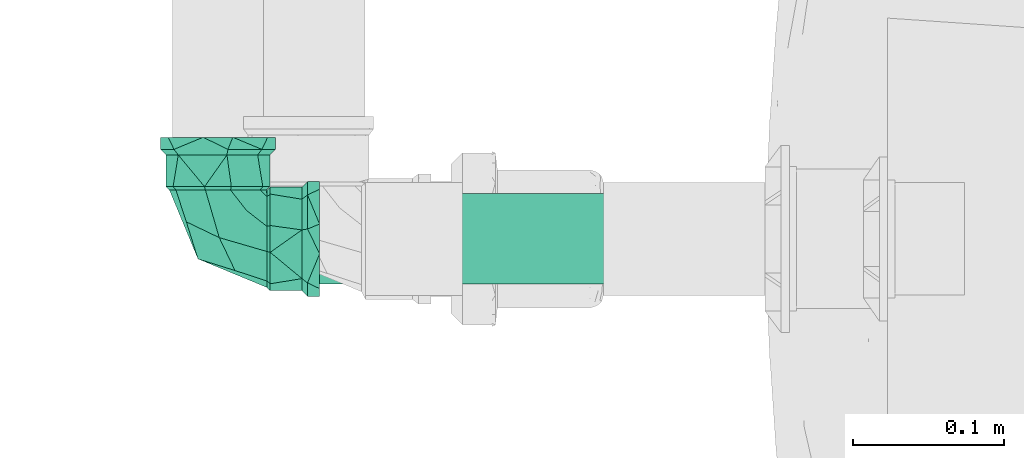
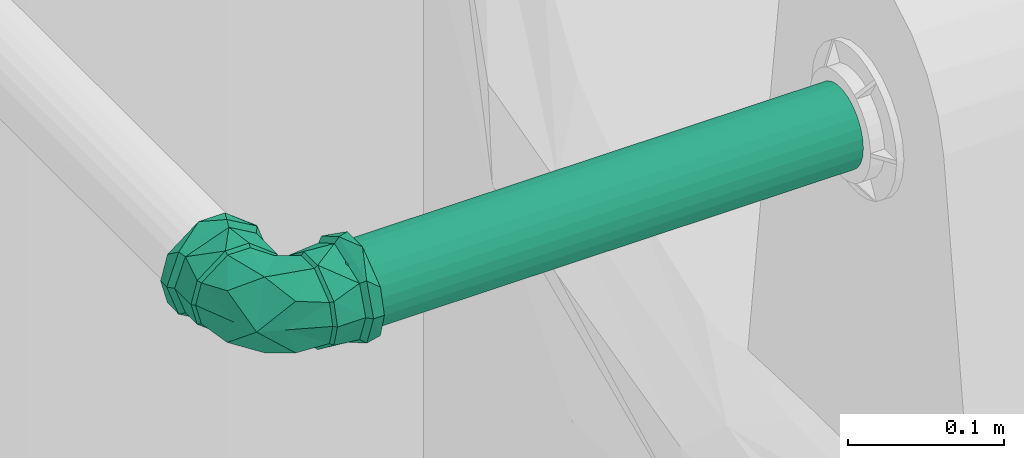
# One storey, part 48 of 166: 1 flow fitting, 1 flow segment.
"""IFC2X3 building model written with IfcOpenShell, lengths in metres."""

from ifc_helpers import new_model, entity, si_unit, converted_unit, direction, frame, origin, origin_2d_with_axis, place, context, subcontext, project, spatial, circle, extrude, faceted_brep, source, transform, mapped, material, type_object, type_shapes, element, save


model = new_model("IFC2X3")

# Units and contexts
model_context = context("Model", 3, precision=1e-05, world=origin(), true_north=direction((6.123233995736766e-17, 1.0)))
body_context = subcontext(model_context, "Body", "Model", "MODEL_VIEW")
ifc_project = project(units=[si_unit("LENGTHUNIT", "METRE"), converted_unit("PLANEANGLEUNIT", "DEGREE", entity("IfcPlaneAngleMeasure", 0.017453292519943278), si_unit("PLANEANGLEUNIT", "RADIAN"), dimensions=[0, 0, 0, 0, 0, 0, 0]), si_unit("AREAUNIT", "SQUARE_METRE")], contexts=[model_context])

# Site, building, storey
site_placement = place(None, origin())
site = spatial("IfcSite", under=ifc_project, at=site_placement, Name="Default", CompositionType="ELEMENT")
building_placement = place(site_placement, origin())
building = spatial("IfcBuilding", under=site, at=building_placement, Name="CASA DE ACOLHIDA PARA IDOSOS", CompositionType="ELEMENT")
storey_placement = place(building_placement, frame((0.0, 0.0, -1.7499999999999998)))
storey = spatial("IfcBuildingStorey", under=building, at=storey_placement, Name="IMPLANTAÇÃO DRENAGEM", CompositionType="ELEMENT", Elevation=-1.7499999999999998)

# Flow segment
pipe_segment_type = type_object("IfcPipeSegmentType", Name="Tipos de tubos:AF_Tubo Branco Roscável", PredefinedType="NOTDEFINED")
flow_segment_placement = place(storey_placement, origin())
element("IfcFlowSegment", 1, at=flow_segment_placement, inside=storey, type_object=pipe_segment_type, Name="Tipos de tubos:AF_Tubo Branco Roscável", ObjectType="Tipos de tubos:AF_Tubo Branco Roscável", context=body_context, shape_type="SweptSolid", body=[
    extrude(circle(Radius=0.03, at=origin_2d_with_axis()), frame((-64.67268057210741, -2.2373781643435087, 2.615000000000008), z_axis=(1.0, 0.0, 0.0), x_axis=(0.0, 1.0, 0.0)), (0.0, 0.0, 1.0), 0.3927705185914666),
])

# Flow fitting
ifc_material = material(Name="PVC Marrom")
pipe_fitting_type = type_object("IfcPipeFittingType", Name="AF_Soldavel_Joelho 45_90:Standard", PredefinedType="NOTDEFINED", material=ifc_material)
shared_shape = source(origin(), body_context, "Body", "Brep", [
    faceted_brep([(-0.029704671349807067, 0.03460000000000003, 0.017149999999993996), (-0.01929108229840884, 0.03460000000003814, 0.02514062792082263), (-0.008877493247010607, 0.034600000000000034, 0.03313125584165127), (0.008877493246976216, 0.034600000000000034, 0.03313125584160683), (0.019291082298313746, 0.0346000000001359, 0.025140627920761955), (0.02970467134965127, 0.03460000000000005, 0.017149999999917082), (0.03429999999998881, 0.03460000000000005, 0.0), (0.0297046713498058, 0.03460000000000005, -0.017150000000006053), (0.019291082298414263, 0.03459999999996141, -0.025140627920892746), (0.008877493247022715, 0.034600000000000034, -0.03313125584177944), (-0.008877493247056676, 0.034600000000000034, -0.033131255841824), (-0.019291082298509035, 0.034599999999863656, -0.025140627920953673), (-0.0297046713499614, 0.03460000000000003, -0.017150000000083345), (-0.03430000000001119, 0.03460000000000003, 0.0), (0.00832103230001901, 0.03240000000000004, 0.031054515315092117), (-0.00832103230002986, 0.03240000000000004, 0.031054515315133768), (-0.01808187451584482, 0.03240000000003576, 0.023564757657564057), (-0.02784271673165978, 0.032400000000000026, 0.01607499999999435), (-0.032150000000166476, 0.032400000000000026, 0.0), (-0.027842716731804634, 0.032400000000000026, -0.016075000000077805), (-0.018081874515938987, 0.03239999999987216, -0.023564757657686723), (-0.00832103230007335, 0.03240000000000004, -0.031054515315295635), (0.008321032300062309, 0.03240000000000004, -0.031054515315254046), (0.018081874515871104, 0.0323999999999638, -0.02356475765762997), (0.0278427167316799, 0.03240000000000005, -0.016075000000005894), (0.032149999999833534, 0.03240000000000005, 0.0), (0.02784271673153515, 0.03240000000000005, 0.016074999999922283), (0.01808187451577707, 0.03240000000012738, 0.023564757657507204)], [[[0, 1, 2, 3, 4, 5, 6, 7, 8, 9, 10, 11, 12, 13]], [[14, 15, 16, 17, 18, 19, 20, 21, 22, 23, 24, 25, 26, 27]], [[7, 25, 24]], [[9, 8, 7, 24, 23, 22]], [[20, 19, 12, 11, 10, 21]], [[7, 6, 25]], [[22, 21, 10, 9]], [[13, 19, 18]], [[13, 12, 19]], [[0, 18, 17]], [[2, 1, 0, 17, 16, 15]], [[27, 26, 5, 4, 3, 14]], [[0, 13, 18]], [[15, 14, 3, 2]], [[6, 26, 25]], [[6, 5, 26]]]),
    faceted_brep([(-0.0345999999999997, -0.008877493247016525, 0.03313125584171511), (-0.0345999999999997, 0.008877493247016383, 0.03313125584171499), (-0.03459999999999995, 0.019291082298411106, 0.025140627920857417), (-0.0345999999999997, 0.029704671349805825, 0.01714999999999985), (-0.0345999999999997, 0.0343, 0.0), (-0.0345999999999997, 0.029704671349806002, -0.017149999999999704), (-0.034600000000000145, 0.019291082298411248, -0.025140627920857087), (-0.0345999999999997, 0.008877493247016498, -0.033131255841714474), (-0.0345999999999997, -0.008877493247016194, -0.033131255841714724), (-0.03459999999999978, -0.019291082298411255, -0.0251406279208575), (-0.0345999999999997, -0.029704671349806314, -0.017150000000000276), (-0.0345999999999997, -0.0343, 0.0), (-0.0345999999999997, -0.02970467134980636, 0.017150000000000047), (-0.03459999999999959, -0.019291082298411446, 0.025140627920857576), (-0.0323999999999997, 0.032149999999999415, 0.0), (-0.0323999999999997, 0.02784271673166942, 0.016074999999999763), (-0.03239999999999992, 0.018081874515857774, 0.023564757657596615), (-0.0323999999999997, 0.008321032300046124, 0.031054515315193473), (-0.0323999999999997, -0.008321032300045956, 0.031054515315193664), (-0.032399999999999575, -0.01808187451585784, 0.023564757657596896), (-0.0323999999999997, -0.027842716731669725, 0.016075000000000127), (-0.0323999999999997, -0.03215000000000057, 0.0), (-0.0323999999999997, -0.027842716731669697, -0.01607500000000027), (-0.03239999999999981, -0.01808187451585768, -0.02356475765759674), (-0.0323999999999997, -0.008321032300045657, -0.031054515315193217), (-0.0323999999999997, 0.008321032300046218, -0.031054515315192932), (-0.032400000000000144, 0.018081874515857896, -0.023564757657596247), (-0.0323999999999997, 0.027842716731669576, -0.016074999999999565)], [[[0, 1, 2, 3, 4, 5, 6, 7, 8, 9, 10, 11, 12, 13]], [[14, 15, 16, 17, 18, 19, 20, 21, 22, 23, 24, 25, 26, 27]], [[5, 4, 14, 27]], [[7, 6, 5, 27, 26, 25]], [[23, 22, 10, 9, 8, 24]], [[25, 24, 8, 7]], [[11, 10, 22, 21]], [[12, 11, 21, 20]], [[0, 13, 12, 20, 19, 18]], [[16, 15, 3, 2, 1, 17]], [[18, 17, 1, 0]], [[4, 3, 15, 14]]]),
    faceted_brep([(-0.06729999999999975, -0.009835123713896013, -0.03670518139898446), (-0.06729999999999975, 0.0, -0.03), (-0.06729999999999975, 0.009835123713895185, -0.03670518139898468), (-0.06729999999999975, -0.015000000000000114, -0.025980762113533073), (-0.06729999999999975, -0.032908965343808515, -0.019000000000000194), (-0.06729999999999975, -0.028977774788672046, -0.007764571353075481), (-0.06729999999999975, -0.03799999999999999, 0.0), (-0.06729999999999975, -0.02897777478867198, 0.007764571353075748), (-0.06729999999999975, -0.03290896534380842, 0.01899999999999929), (-0.06729999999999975, -0.014999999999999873, 0.02598076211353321), (-0.06729999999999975, -0.009835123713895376, 0.036705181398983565), (-0.06729999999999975, 0.0, 0.03), (-0.06729999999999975, 0.009835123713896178, 0.03670518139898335), (-0.06729999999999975, 0.014999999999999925, 0.025980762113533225), (-0.06729999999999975, 0.032908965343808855, 0.018999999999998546), (-0.06729999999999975, 0.028977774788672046, 0.007764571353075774), (-0.06729999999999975, 0.038000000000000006, 0.0), (-0.06729999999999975, 0.028977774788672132, -0.007764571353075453), (-0.06729999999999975, 0.03290896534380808, -0.01900000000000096), (-0.06729999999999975, 0.015000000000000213, -0.025980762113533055), (-0.05929999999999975, 0.038000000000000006, 0.0), (-0.05930000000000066, 0.029109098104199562, 0.024426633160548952), (-0.05930000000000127, 0.006596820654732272, 0.03742301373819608), (-0.05930000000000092, -0.029111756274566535, 0.02442346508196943), (-0.05929999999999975, -0.03799999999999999, 0.0), (-0.05929999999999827, -0.029111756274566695, -0.024423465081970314), (-0.05929999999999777, -0.006600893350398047, -0.03742229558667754), (-0.059299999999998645, 0.029109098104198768, -0.024426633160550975), (-0.05560000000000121, -0.026279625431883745, 0.022042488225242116), (-0.05560000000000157, 0.005952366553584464, 0.033779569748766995), (-0.05559999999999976, -0.0343, 0.0), (-0.05560000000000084, 0.026274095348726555, 0.022049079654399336), (-0.05559999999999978, 0.034299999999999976, 0.0), (-0.055599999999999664, 0.02627409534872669, -0.02204907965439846), (-0.05559999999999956, -0.0059608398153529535, -0.03377807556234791), (-0.05559999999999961, -0.026279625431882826, -0.022042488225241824), (-0.03459999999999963, -0.015000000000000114, -0.025980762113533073), (-0.03459999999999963, -0.0088774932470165, -0.03313125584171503), (-0.03459999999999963, 0.0, -0.03), (-0.03459999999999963, -0.02970467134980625, -0.017149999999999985), (-0.03459999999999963, -0.028977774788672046, -0.007764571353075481), (-0.03459999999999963, -0.0343, 0.0), (-0.03459999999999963, -0.02897777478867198, 0.007764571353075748), (-0.03459999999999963, -0.029704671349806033, 0.017150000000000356), (-0.03459999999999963, -0.014999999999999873, 0.02598076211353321), (-0.03459999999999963, -0.008877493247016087, 0.03313125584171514), (-0.03459999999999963, 0.0, 0.03), (-0.03459999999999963, 0.008877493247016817, 0.033131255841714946), (-0.03459999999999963, 0.014999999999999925, 0.025980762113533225), (-0.03459999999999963, 0.029704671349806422, 0.0171499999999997), (-0.03459999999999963, 0.028977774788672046, 0.007764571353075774), (-0.03459999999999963, 0.034300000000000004, 0.0), (-0.03459999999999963, 0.028977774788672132, -0.007764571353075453), (-0.03459999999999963, 0.029704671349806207, -0.017150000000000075), (-0.03459999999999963, 0.015000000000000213, -0.025980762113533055), (-0.03459999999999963, 0.008877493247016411, -0.03313125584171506)], [[[0, 1, 2]], [[1, 0, 3]], [[4, 3, 0]], [[3, 4, 5]], [[5, 4, 6]], [[7, 5, 6]], [[7, 6, 8]], [[8, 9, 7]], [[8, 10, 9]], [[9, 10, 11]], [[12, 11, 10]], [[13, 11, 12]], [[13, 12, 14]], [[14, 15, 13]], [[15, 14, 16]], [[15, 16, 17]], [[18, 17, 16]], [[2, 19, 18]], [[17, 18, 19]], [[19, 2, 1]], [[16, 14, 20]], [[14, 21, 20]], [[21, 14, 12]], [[21, 12, 22]], [[23, 10, 8]], [[24, 8, 6]], [[10, 23, 22]], [[23, 8, 24]], [[10, 22, 12]], [[6, 4, 24]], [[4, 25, 24]], [[25, 4, 0]], [[25, 0, 26]], [[27, 2, 18]], [[20, 18, 16]], [[2, 27, 26]], [[27, 18, 20]], [[2, 26, 0]], [[28, 29, 23]], [[30, 28, 24]], [[24, 28, 23]], [[29, 22, 23]], [[31, 32, 21]], [[21, 22, 31]], [[20, 21, 32]], [[31, 22, 29]], [[32, 33, 27]], [[27, 20, 32]], [[26, 27, 33]], [[33, 34, 26]], [[35, 30, 24]], [[35, 25, 34]], [[25, 35, 24]], [[34, 25, 26]], [[36, 37, 38]], [[39, 37, 36]], [[36, 40, 39]], [[40, 41, 39]], [[42, 41, 40]], [[41, 42, 43]], [[44, 43, 42]], [[43, 44, 45]], [[46, 45, 44]], [[47, 45, 46]], [[48, 47, 46]], [[47, 48, 49]], [[50, 49, 48]], [[49, 50, 51]], [[51, 50, 52]], [[51, 52, 53]], [[53, 52, 54]], [[54, 38, 55]], [[55, 53, 54]], [[37, 55, 38]], [[32, 31, 49]], [[32, 49, 51]], [[49, 31, 47]], [[31, 29, 47]], [[45, 29, 28]], [[43, 28, 30]], [[28, 43, 45]], [[43, 30, 41]], [[29, 45, 47]], [[30, 35, 39]], [[30, 39, 41]], [[39, 35, 37]], [[35, 34, 37]], [[55, 34, 33]], [[53, 33, 32]], [[33, 53, 55]], [[53, 32, 51]], [[34, 55, 37]], [[9, 11, 46, 44]], [[7, 9, 44, 42]], [[42, 40, 5, 7]], [[3, 5, 40, 36]], [[1, 3, 36, 38]], [[19, 1, 38, 54]], [[17, 19, 54, 52]], [[52, 50, 15, 17]], [[13, 15, 50, 48]], [[11, 13, 48, 46]]]),
    faceted_brep([(-0.032399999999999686, -0.00832103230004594, -0.031054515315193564), (-0.03239999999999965, -0.027842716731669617, -0.016075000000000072), (-0.032399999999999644, -0.032149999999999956, 0.0), (-0.03239999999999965, -0.027842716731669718, 0.01607499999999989), (-0.032399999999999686, -0.008321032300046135, 0.03105451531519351), (-0.03239999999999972, 0.008321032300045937, 0.031054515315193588), (-0.032399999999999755, 0.027842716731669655, 0.016075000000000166), (-0.03239999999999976, 0.03215000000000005, 0.0), (-0.032399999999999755, 0.027842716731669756, -0.016074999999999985), (-0.03239999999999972, 0.008321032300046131, -0.031054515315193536), (-0.00832103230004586, 0.03239999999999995, -0.031054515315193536), (-0.027842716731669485, 0.03240000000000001, -0.016074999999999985), (-0.032149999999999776, 0.032400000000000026, 0.0), (-0.027842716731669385, 0.03240000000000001, 0.016075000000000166), (-0.008321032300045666, 0.03239999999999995, 0.031054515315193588), (0.008321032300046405, 0.032399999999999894, 0.03105451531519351), (0.02784271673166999, 0.03239999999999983, 0.01607499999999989), (0.03215000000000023, 0.032399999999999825, 0.0), (0.027842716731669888, 0.03239999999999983, -0.016075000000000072), (0.008321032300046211, 0.032399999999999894, -0.031054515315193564), (-0.000853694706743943, 0.0008536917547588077, 0.02973987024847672), (-0.011305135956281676, -0.02093489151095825, 0.020269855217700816), (-0.0034548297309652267, -0.020160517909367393, 0.0), (0.013243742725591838, -0.013243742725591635, 0.0), (0.02093489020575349, 0.011305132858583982, 0.02026985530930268), (-0.03222322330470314, 0.032223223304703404, 0.0), (-0.018882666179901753, 0.01888266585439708, 0.02927743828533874), (0.020160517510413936, 0.0034548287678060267, 0.0), (-0.011305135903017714, -0.0209348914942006, -0.020269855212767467), (-0.01888266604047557, 0.018882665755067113, -0.029277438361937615), (-0.0008536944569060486, 0.0008536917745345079, -0.02973987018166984), (0.02093489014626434, 0.011305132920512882, -0.020269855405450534)], [[[0, 1, 2, 3, 4, 5, 6, 7, 8, 9]], [[10, 11, 12, 13, 14, 15, 16, 17, 18, 19]], [[4, 20, 5]], [[21, 3, 22]], [[23, 21, 22]], [[15, 20, 24]], [[21, 4, 3]], [[25, 6, 13]], [[23, 24, 20]], [[25, 7, 6]], [[6, 5, 26]], [[3, 2, 22]], [[20, 21, 23]], [[27, 17, 16]], [[20, 26, 5]], [[20, 4, 21]], [[24, 27, 16]], [[6, 26, 13]], [[25, 13, 12]], [[24, 16, 15]], [[20, 14, 26]], [[14, 13, 26]], [[24, 23, 27]], [[14, 20, 15]], [[28, 23, 22]], [[28, 1, 0]], [[29, 8, 11]], [[29, 30, 9]], [[2, 1, 22]], [[30, 19, 31]], [[1, 28, 22]], [[30, 0, 9]], [[23, 28, 30]], [[30, 29, 10]], [[8, 7, 25]], [[25, 12, 11]], [[23, 31, 27]], [[0, 30, 28]], [[11, 10, 29]], [[30, 10, 19]], [[18, 17, 27]], [[23, 30, 31]], [[8, 29, 9]], [[31, 19, 18]], [[18, 27, 31]], [[11, 8, 25]]]),
    faceted_brep([(-0.015000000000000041, 0.03460000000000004, -0.025980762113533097), (-0.008877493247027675, 0.03460000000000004, -0.03313125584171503), (0.0, 0.03460000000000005, -0.03), (-0.02970467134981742, 0.034600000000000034, -0.017149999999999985), (-0.028977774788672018, 0.034600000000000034, -0.007764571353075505), (-0.03430000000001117, 0.034600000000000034, 0.0), (-0.028977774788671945, 0.034600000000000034, 0.007764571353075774), (-0.02970467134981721, 0.034600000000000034, 0.017150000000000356), (-0.01499999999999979, 0.03460000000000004, 0.025980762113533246), (-0.00887749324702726, 0.03460000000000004, 0.03313125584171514), (0.0, 0.03460000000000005, 0.03), (0.008877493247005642, 0.03460000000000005, 0.033131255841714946), (0.01500000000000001, 0.03460000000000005, 0.02598076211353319), (0.029704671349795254, 0.034600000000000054, 0.017149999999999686), (0.02897777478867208, 0.034600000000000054, 0.007764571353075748), (0.034299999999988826, 0.034600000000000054, 0.0), (0.028977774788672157, 0.034600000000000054, -0.007764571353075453), (0.029704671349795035, 0.034600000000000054, -0.017150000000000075), (0.01500000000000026, 0.03460000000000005, -0.02598076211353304), (0.008877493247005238, 0.03460000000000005, -0.03313125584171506), (0.03429999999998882, 0.055600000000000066, 0.0), (0.026274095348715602, 0.055600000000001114, 0.022049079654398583), (-0.005960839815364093, 0.05560000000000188, 0.03377807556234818), (-0.026279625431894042, 0.0556000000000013, 0.022042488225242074), (-0.034300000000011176, 0.055600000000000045, 0.0), (-0.026279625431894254, 0.05559999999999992, -0.022042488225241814), (0.005952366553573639, 0.0555999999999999, -0.03377956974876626), (0.026274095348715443, 0.05559999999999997, -0.022049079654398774), (-0.029109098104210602, 0.05930000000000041, 0.02442663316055), (-0.038000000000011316, 0.05929999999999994, 0.0), (-0.006596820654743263, 0.0593000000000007, 0.03742301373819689), (0.029111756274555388, 0.05930000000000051, 0.024423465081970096), (0.037999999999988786, 0.059300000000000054, 0.0), (0.029111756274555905, 0.05930000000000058, -0.024423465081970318), (0.006600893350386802, 0.05930000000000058, -0.03742229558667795), (-0.029109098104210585, 0.05930000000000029, -0.02442663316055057), (-0.009835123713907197, 0.06730000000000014, -0.036705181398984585), (-0.015000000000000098, 0.06730000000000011, -0.025980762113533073), (0.0, 0.06730000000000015, -0.03), (-0.03290896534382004, 0.06730000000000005, -0.018999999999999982), (0.009835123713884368, 0.06730000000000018, -0.03670518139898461), (-0.028977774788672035, 0.06730000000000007, -0.007764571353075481), (-0.03800000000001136, 0.06730000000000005, 0.0), (-0.028977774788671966, 0.06730000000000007, 0.007764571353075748), (-0.0329089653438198, 0.06730000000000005, 0.0190000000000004), (-0.014999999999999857, 0.06730000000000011, 0.02598076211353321), (-0.009835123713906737, 0.06730000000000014, 0.0367051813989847), (0.0, 0.06730000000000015, 0.03), (0.009835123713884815, 0.06730000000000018, 0.03670518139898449), (0.01499999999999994, 0.06730000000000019, 0.025980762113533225), (0.03290896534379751, 0.06730000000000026, 0.018999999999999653), (0.02897777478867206, 0.06730000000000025, 0.007764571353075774), (0.03799999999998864, 0.06730000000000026, 0.0), (0.028977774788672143, 0.06730000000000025, -0.007764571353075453), (0.03290896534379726, 0.06730000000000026, -0.019000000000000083), (0.015000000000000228, 0.06730000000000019, -0.025980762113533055)], [[[0, 1, 2]], [[3, 1, 0]], [[0, 4, 3]], [[4, 5, 3]], [[6, 5, 4]], [[5, 6, 7]], [[8, 7, 6]], [[7, 8, 9]], [[10, 9, 8]], [[11, 9, 10]], [[12, 11, 10]], [[11, 12, 13]], [[14, 13, 12]], [[13, 14, 15]], [[15, 14, 16]], [[15, 16, 17]], [[17, 16, 18]], [[18, 2, 19]], [[19, 17, 18]], [[1, 19, 2]], [[20, 21, 13]], [[20, 13, 15]], [[13, 21, 11]], [[21, 22, 11]], [[9, 22, 23]], [[7, 23, 24]], [[23, 7, 9]], [[7, 24, 5]], [[22, 9, 11]], [[24, 25, 3]], [[24, 3, 5]], [[3, 25, 1]], [[25, 26, 1]], [[19, 26, 27]], [[17, 27, 20]], [[27, 17, 19]], [[17, 20, 15]], [[26, 19, 1]], [[23, 22, 28]], [[24, 23, 29]], [[29, 23, 28]], [[22, 30, 28]], [[21, 20, 31]], [[31, 30, 21]], [[32, 31, 20]], [[21, 30, 22]], [[20, 27, 33]], [[33, 32, 20]], [[34, 33, 27]], [[27, 26, 34]], [[25, 24, 29]], [[25, 35, 26]], [[35, 25, 29]], [[26, 35, 34]], [[36, 37, 38]], [[37, 36, 39]], [[38, 40, 36]], [[39, 41, 37]], [[39, 42, 41]], [[41, 42, 43]], [[44, 43, 42]], [[43, 44, 45]], [[46, 45, 44]], [[45, 46, 47]], [[47, 46, 48]], [[48, 49, 47]], [[50, 49, 48]], [[49, 50, 51]], [[52, 51, 50]], [[52, 53, 51]], [[54, 53, 52]], [[55, 53, 54]], [[55, 54, 40]], [[40, 38, 55]], [[52, 50, 32]], [[50, 31, 32]], [[31, 50, 48]], [[31, 48, 30]], [[28, 46, 44]], [[29, 44, 42]], [[46, 28, 30]], [[28, 44, 29]], [[46, 30, 48]], [[42, 39, 29]], [[39, 35, 29]], [[35, 39, 36]], [[35, 36, 34]], [[33, 40, 54]], [[32, 54, 52]], [[40, 33, 34]], [[33, 54, 32]], [[40, 34, 36]], [[45, 47, 10, 8]], [[43, 45, 8, 6]], [[6, 4, 41, 43]], [[37, 41, 4, 0]], [[38, 37, 0, 2]], [[55, 38, 2, 18]], [[53, 55, 18, 16]], [[16, 14, 51, 53]], [[49, 51, 14, 12]], [[47, 49, 12, 10]]]),
])
type_shapes(pipe_fitting_type, [shared_shape])
flow_fitting_placement = place(storey_placement, frame((-64.70728057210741, -2.2373781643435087, 2.615000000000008), z_axis=(0.0, 0.0, 1.0), x_axis=(0.0, -1.0, 0.0)))
element("IfcFlowFitting", 2, at=flow_fitting_placement, inside=storey, type_object=pipe_fitting_type, material=ifc_material, Name="AF_Soldavel_Joelho 45_90:Standard", ObjectType="AF_Soldavel_Joelho 45_90:Standard", context=body_context, shape_type="MappedRepresentation", body=[
    mapped(shared_shape, transform((0.0, 0.0, 0.0), scale=1.0)),
])

save(model, "model.ifc")
